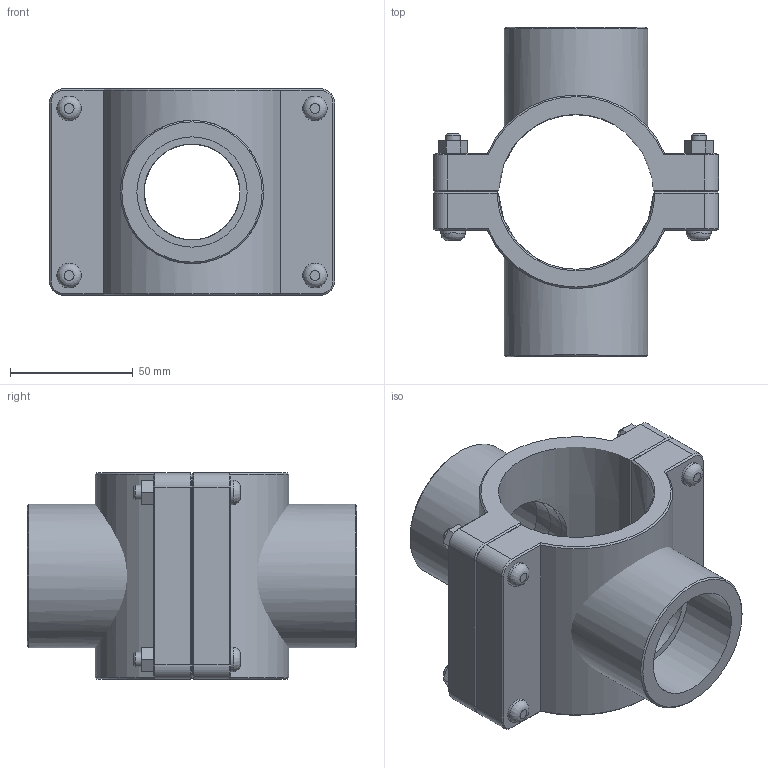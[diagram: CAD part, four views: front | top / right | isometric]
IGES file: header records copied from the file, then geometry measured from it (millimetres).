
Global section: file name: 161760063015_161860063015.ipt; native system: Autodesk Inventor 2015; preprocessor: unknown; author: KIM; date: 20170618.093709; units: millimetre
Bounding box: 116 x 134 x 84 mm (x, y, z)
Volume: 326556.1 mm3; surface area: 86972.5 mm2
Topology: 3 solids, 3 shells, 151 faces, 350 edges, 221 vertices
Faces by surface type: plane 84, cone 26, cylinder 24, revolution 17
Full cylindrical faces by diameter (mm): 6 x4, 10 x8, 58.298 x2
